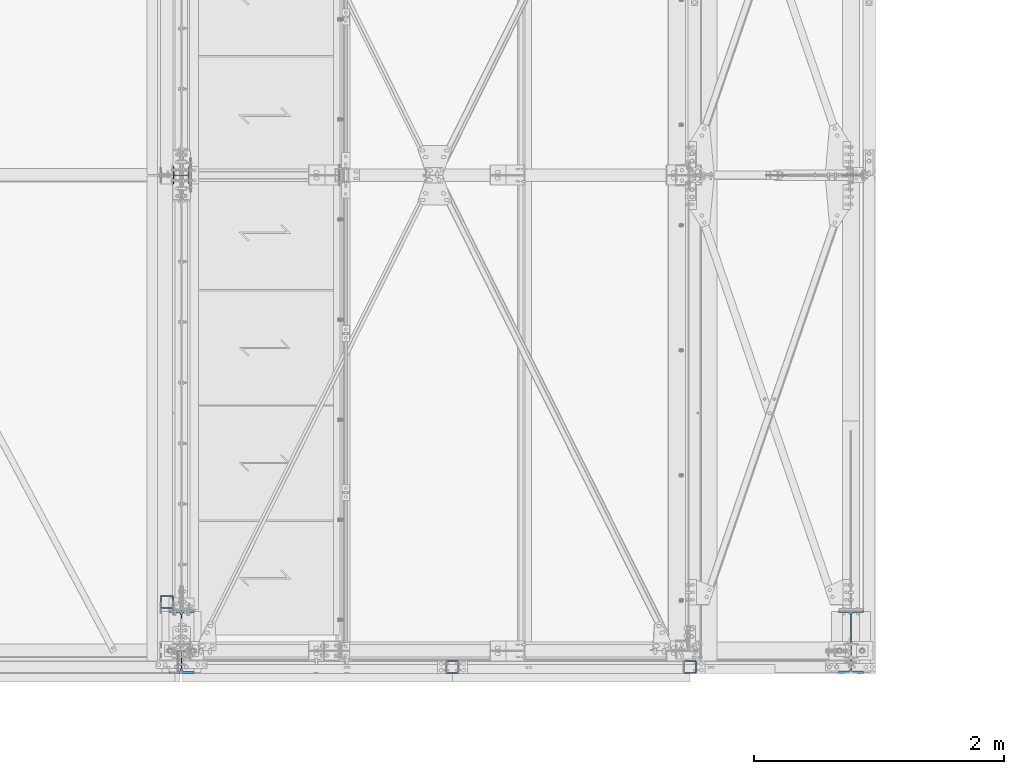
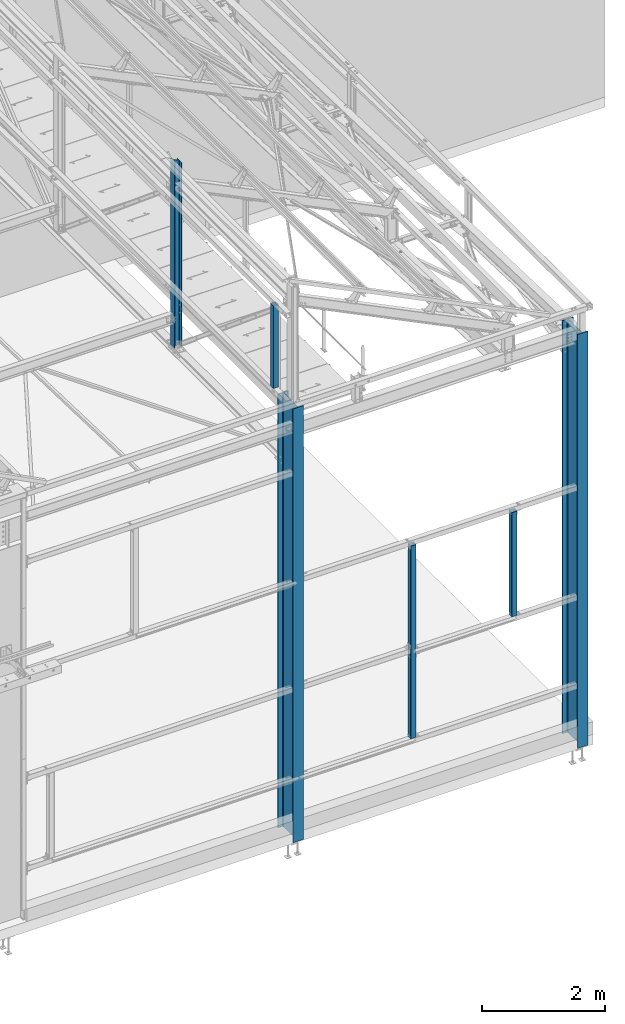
# One storey, part 16 of 362: 6 columns, 6 elements without a shape of their own.
"""IFC2X3 building model written with IfcOpenShell, lengths in millimetres."""

from ifc_helpers import new_model, si_unit, frame, origin_with_axes, origin_2d_with_axis, place, context, subcontext, project, spatial, hollow_rectangle, i_section, extrude, clip, halfspace, material, type_object, element, aggregate, save


model = new_model("IFC2X3")

# Units and contexts
model_context = context("Model", 3, precision=1e-05, world=origin_with_axes())
body_context = subcontext(model_context, "Body", "Model", "MODEL_VIEW")
ifc_project = project(units=[si_unit("LENGTHUNIT", "METRE", prefix="MILLI"), si_unit("AREAUNIT", "SQUARE_METRE"), si_unit("VOLUMEUNIT", "CUBIC_METRE"), si_unit("MASSUNIT", "GRAM", prefix="KILO"), si_unit("TIMEUNIT", "SECOND"), si_unit("PLANEANGLEUNIT", "RADIAN"), si_unit("SOLIDANGLEUNIT", "STERADIAN"), si_unit("THERMODYNAMICTEMPERATUREUNIT", "DEGREE_CELSIUS"), si_unit("LUMINOUSINTENSITYUNIT", "LUMEN")], contexts=[model_context])

# Site, building, storey
site_placement = place(None, origin_with_axes())
site = spatial("IfcSite", under=ifc_project, at=site_placement, Name="Undefined", CompositionType="ELEMENT")
building_placement = place(site_placement, origin_with_axes())
building = spatial("IfcBuilding", under=site, at=building_placement, Name="Undefined", CompositionType="ELEMENT")
storey_placement = place(building_placement, origin_with_axes())
storey = spatial("IfcBuildingStorey", under=building, at=storey_placement, Name="Undefined", CompositionType="ELEMENT", Elevation=0.0)

# Assembly, column
assembly_1_placement = place(storey_placement, origin_with_axes())
assembly_1 = element("IfcElementAssembly", 1, at=assembly_1_placement, inside=storey, Name="MONTANT", AssemblyPlace="NOTDEFINED", PredefinedType="NOTDEFINED")
ifc_material_1 = material(Name="Undefined/S235-E24")
column_type_1 = type_object("IfcColumnType", Name="TUBE-C-100*100*4", PredefinedType="NOTDEFINED")
column_1_placement = place(assembly_1_placement, frame((34163.5001162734, 390.000158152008, 8555.00000000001), z_axis=(0.0, 0.0, 1.0), x_axis=(0.0, -1.0, 0.0)))
column_1 = element("IfcColumn", 2, at=column_1_placement, type_object=column_type_1, material=ifc_material_1, Name="MONTANT", ObjectType="TUBE-C-100*100*4", context=body_context, shape_type="SweptSolid", body=[
    extrude(hollow_rectangle(XDim=100.0, YDim=100.0, WallThickness=4.0, InnerFilletRadius=4.0, OuterFilletRadius=8.0, at=origin_2d_with_axis()), frame((0.0, 0.0, 1635.0), z_axis=(0.0, 0.0, -1.0), x_axis=(0.0, 1.0, 0.0)), (0.0, 0.0, 1.0), 1635.0),
])
aggregate(assembly_1, [column_1])

assembly_2_placement = place(storey_placement, origin_with_axes())
assembly_2 = element("IfcElementAssembly", 3, at=assembly_2_placement, inside=storey, Name="MONTANT", AssemblyPlace="NOTDEFINED", PredefinedType="NOTDEFINED")
column_2_placement = place(assembly_2_placement, frame((38345.0025836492, -129.99971712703, 2865.00000002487), z_axis=(0.0, 0.0, 1.0), x_axis=(0.0, 1.0, 0.0)))
column_2 = element("IfcColumn", 4, at=column_2_placement, type_object=column_type_1, material=ifc_material_1, Name="MONTANT", ObjectType="TUBE-C-100*100*4", context=body_context, shape_type="SweptSolid", body=[
    extrude(hollow_rectangle(XDim=100.0, YDim=100.0, WallThickness=4.0, InnerFilletRadius=4.0, OuterFilletRadius=8.0, at=origin_2d_with_axis()), frame((0.0, 0.0, 2070.0), z_axis=(0.0, 0.0, -1.0), x_axis=(0.0, 1.0, 0.0)), (0.0, 0.0, 1.0), 2070.0),
])
aggregate(assembly_2, [column_2])

assembly_3_placement = place(storey_placement, origin_with_axes())
assembly_3 = element("IfcElementAssembly", 5, at=assembly_3_placement, inside=storey, Name="MONTANT", AssemblyPlace="NOTDEFINED", PredefinedType="NOTDEFINED")
column_3_placement = place(assembly_3_placement, frame((36445.0025831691, -129.999731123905, 1104.9999999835), z_axis=(0.0, 0.0, 1.0), x_axis=(0.0, 1.0, 0.0)))
column_3 = element("IfcColumn", 6, at=column_3_placement, type_object=column_type_1, material=ifc_material_1, Name="MONTANT", ObjectType="TUBE-C-100*100*4", context=body_context, shape_type="SweptSolid", body=[
    extrude(hollow_rectangle(XDim=100.0, YDim=100.0, WallThickness=4.0, InnerFilletRadius=4.0, OuterFilletRadius=8.0, at=origin_2d_with_axis()), frame((0.0, 0.0, 3830.0), z_axis=(0.0, 0.0, -1.0), x_axis=(0.0, 1.0, 0.0)), (0.0, 0.0, 1.0), 3830.0),
])
aggregate(assembly_3, [column_3])

assembly_4_placement = place(storey_placement, origin_with_axes())
assembly_4 = element("IfcElementAssembly", 7, at=assembly_4_placement, inside=storey, Name="MONTANT", AssemblyPlace="NOTDEFINED", PredefinedType="NOTDEFINED")
ifc_material_2 = material(Name="Undefined/S275-E28")
column_type_2 = type_object("IfcColumnType", Name="HEA140", PredefinedType="NOTDEFINED")
column_4_placement = place(assembly_4_placement, frame((34280.0, 3800.0, 7260.0), z_axis=(0.0, 0.0, 1.0), x_axis=(-1.0, 0.0, 0.0)))
column_4 = element("IfcColumn", 8, at=column_4_placement, type_object=column_type_2, material=ifc_material_2, Name="MONTANT", ObjectType="HEA140", context=body_context, shape_type="Clipping", body=[
    clip(extrude(i_section(OverallWidth=140.0, OverallDepth=133.0, WebThickness=5.5, FlangeThickness=8.5, FilletRadius=12.0, at=origin_2d_with_axis()), frame((0.0, 0.0, 3730.84210522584), z_axis=(0.0, 0.0, -1.0), x_axis=(0.0, 1.0, 0.0)), (0.0, 0.0, 1.0), 3730.84), halfspace(frame((-66.5, 70.0, 3654.3071165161), z_axis=(-0.441220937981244, -6.28179308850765e-09, 0.89739850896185), x_axis=(0.89739850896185, 0.0, 0.441220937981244)), False)),
])
aggregate(assembly_4, [column_4])

assembly_5_placement = place(storey_placement, origin_with_axes())
assembly_5 = element("IfcElementAssembly", 9, at=assembly_5_placement, inside=storey, Name="POTEAU", AssemblyPlace="NOTDEFINED", PredefinedType="NOTDEFINED")
column_type_3 = type_object("IfcColumnType", Name="IPE500", PredefinedType="NOTDEFINED")
column_5_placement = place(assembly_5_placement, frame((39629.9971504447, 70.0, -185.0), z_axis=(0.0, 0.0, 1.0), x_axis=(0.0, 1.0, 0.0)))
column_5 = element("IfcColumn", 10, at=column_5_placement, type_object=column_type_3, material=ifc_material_2, Name="POTEAU", ObjectType="IPE500", context=body_context, shape_type="Clipping", body=[
    clip(extrude(i_section(OverallWidth=200.0, OverallDepth=500.0, WebThickness=10.19999981, FlangeThickness=16.0, FilletRadius=21.0, at=origin_2d_with_axis()), frame((0.0, -4.35957270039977e-19, 8235.00000000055), z_axis=(0.0, 0.0, -1.0), x_axis=(0.0, 1.0, 0.0)), (0.0, 0.0, 1.0), 8235.0), halfspace(frame((-250.0, 99.9999982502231, 8230.65175644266), z_axis=(0.0314107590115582, 0.0, 0.999506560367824), x_axis=(0.999506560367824, 0.0, -0.0314107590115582)), False)),
])
aggregate(assembly_5, [column_5])

assembly_6_placement = place(storey_placement, origin_with_axes())
assembly_6 = element("IfcElementAssembly", 11, at=assembly_6_placement, inside=storey, Name="POTEAU", AssemblyPlace="NOTDEFINED", PredefinedType="NOTDEFINED")
column_6_placement = place(assembly_6_placement, frame((34279.9971504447, 70.0, -185.0), z_axis=(0.0, 0.0, 1.0), x_axis=(0.0, 1.0, 0.0)))
column_6 = element("IfcColumn", 12, at=column_6_placement, type_object=column_type_3, material=ifc_material_2, Name="POTEAU", ObjectType="IPE500", context=body_context, shape_type="SweptSolid", body=[
    extrude(i_section(OverallWidth=200.0, OverallDepth=500.0, WebThickness=10.19999981, FlangeThickness=16.0, FilletRadius=21.0, at=origin_2d_with_axis()), frame((0.0, 0.0, 8625.00000000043), z_axis=(0.0, 0.0, -1.0), x_axis=(0.0, 1.0, 0.0)), (0.0, 0.0, 1.0), 8625.0),
])
aggregate(assembly_6, [column_6])

save(model, "model.ifc")
